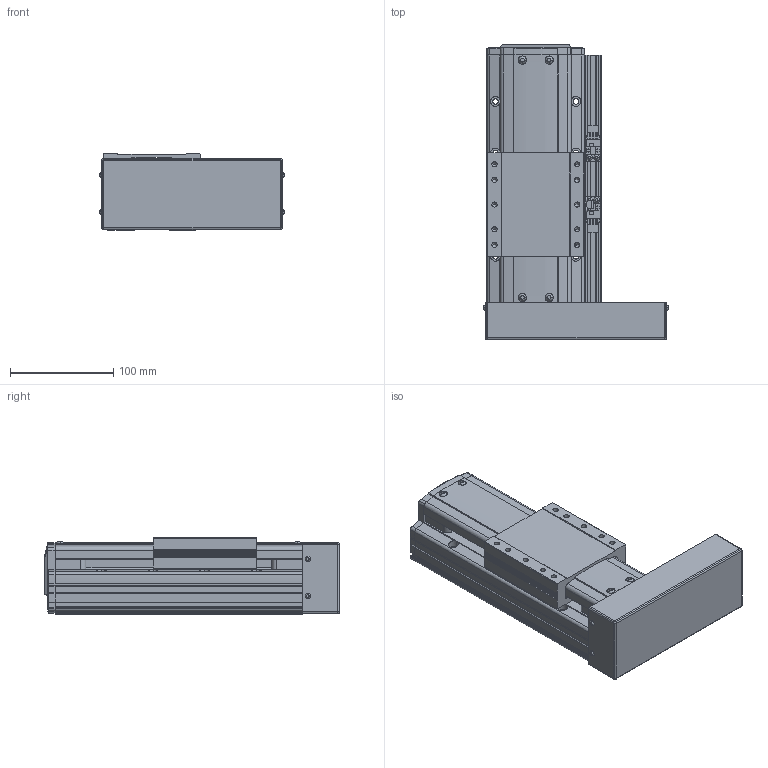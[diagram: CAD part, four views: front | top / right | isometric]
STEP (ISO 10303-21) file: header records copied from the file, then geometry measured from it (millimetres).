
FILE_DESCRIPTION(('STEP AP214'),'1');
FILE_NAME('Z:/Web/3D/PSA95/STP/PSA95-050 (3D)/PSA95ㅁㅁ-050PR+2SR.stp','2014-07-02T23:36:15',(' '),(' '),'Spatial InterOp 3D',' ',' ');
FILE_SCHEMA(('automotive_design'));
Length unit declared in the file: millimetre
Products named in the file (37): BASE; RRCV; 스크루 : Round - M4.0 x 10.0; 너트 : Square - M10.0 x 220.7419; RR1500; FRCV-090; 스크루 : Round - M4.0 x 6.0; SLBL-PA90; MOTOR PLATE COVER; 스크루 : Round - M3.0 x 6.0; EE-SX674; SBK-SX674-352; M3.0 x 6.0; SRL-16x17-380L; SGD-PA95; 스크루 : Round - M3.0 x 8.0
Bounding box: 179.13 x 286.5 x 74 mm (x, y, z)
Volume: 1887763.4 mm3; surface area: 264902.1 mm2
Topology: 37 solids, 37 shells, 2113 faces, 5648 edges, 3657 vertices
Faces by surface type: plane 1305, cylinder 557, cone 155, sphere 58, bspline 24, torus 14
Entity records: 85372 total; most frequent: CARTESIAN_POINT 14396, DIRECTION 11200, ORIENTED_EDGE 11148, EDGE_CURVE 5574, LINE 3906, VECTOR 3906, VERTEX_POINT 3657, AXIS2_PLACEMENT_3D 3647
